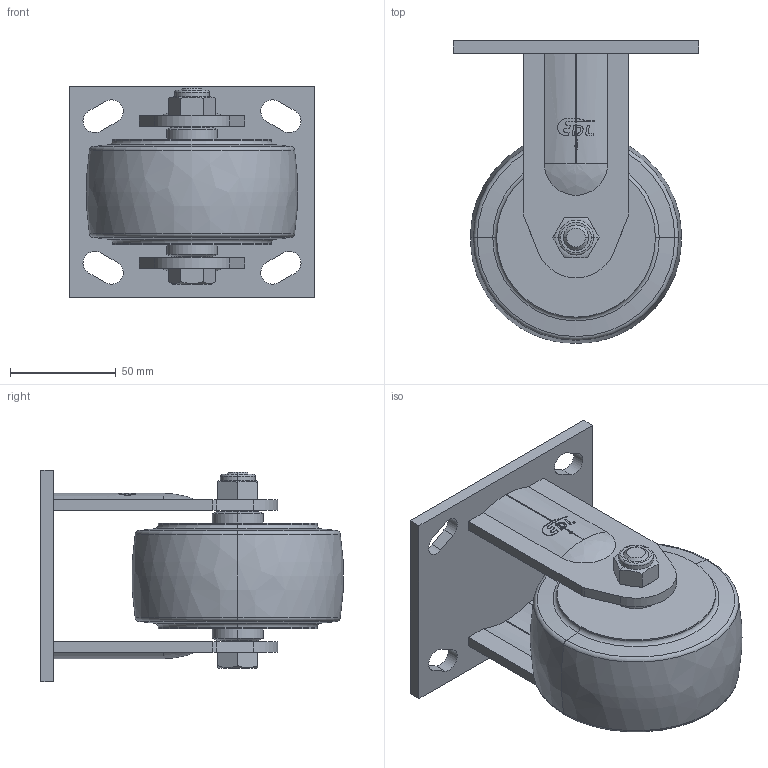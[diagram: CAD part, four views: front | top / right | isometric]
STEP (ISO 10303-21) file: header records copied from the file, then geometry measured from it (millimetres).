
FILE_DESCRIPTION((''),'2;1');
FILE_NAME('73104-734-86_ASM','2020-11-25T',('lenovo'),(''),'PRO/ENGINEER BY PARAMETRIC TECHNOLOGY CORPORATION, 2010280','PRO/ENGINEER BY PARAMETRIC TECHNOLOGY CORPORATION, 2010280','');
FILE_SCHEMA(('CONFIG_CONTROL_DESIGN'));
Length unit declared in the file: millimetre
Products named in the file (6): 7310-200; 7314-351; 734-86; 7010-33; 7010-34; 73104-734-86_ASM
Assembly tree (5 placements, depth 2):
  73104-734-86_ASM
    7310-200
    7314-351
    734-86
    7010-33
    7010-34
Bounding box: 116 x 142.83 x 100 mm (x, y, z)
Volume: 494806.4 mm3; surface area: 83024.2 mm2
Topology: 6 solids, 6 shells, 204 faces, 520 edges, 334 vertices
Faces by surface type: plane 102, cylinder 62, cone 20, torus 14, bspline 6
Entity records: 6762 total; most frequent: CARTESIAN_POINT 1638, DIRECTION 1067, ORIENTED_EDGE 1040, EDGE_CURVE 520, AXIS2_PLACEMENT_3D 405, VERTEX_POINT 334, VECTOR 257, LINE 257
